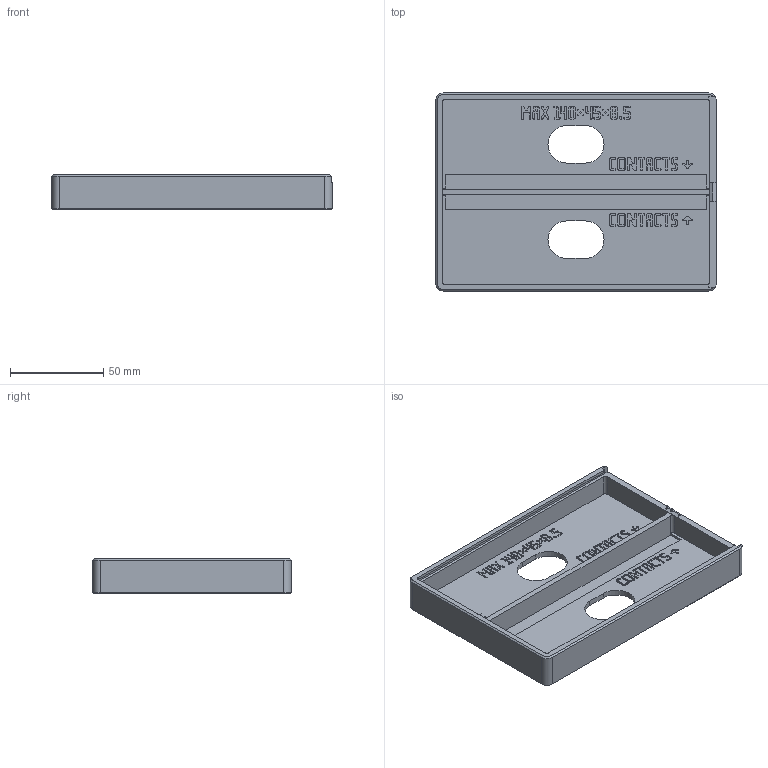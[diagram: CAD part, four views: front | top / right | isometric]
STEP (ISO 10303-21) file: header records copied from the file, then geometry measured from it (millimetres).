
FILE_DESCRIPTION(('Open CASCADE Model'),'2;1');
FILE_NAME('Open CASCADE Shape Model','2026-11-03T10:25:28',('Author'),( 'Open CASCADE'),'Open CASCADE STEP processor 8.0','build123d', 'Unknown');
FILE_SCHEMA(('AUTOMOTIVE_DESIGN { 1 0 10303 214 1 1 1 1 }'));
Products named in the file (1): COMPOUND
Bounding box: 150 x 106 x 18.7 mm (x, y, z)
Volume: 70284.8 mm3; surface area: 51803.3 mm2
Topology: 3 solids, 3 shells, 4397 faces, 12973 edges, 8640 vertices
Faces by surface type: plane 4365, cylinder 24, cone 8
Entity records: 312067 total; most frequent: CARTESIAN_POINT 52248, DIRECTION 47616, LINE 38660, VECTOR 38660, ORIENTED_EDGE 25946, PCURVE 25946, DEFINITIONAL_REPRESENTATION 25946, EDGE_CURVE 12973
